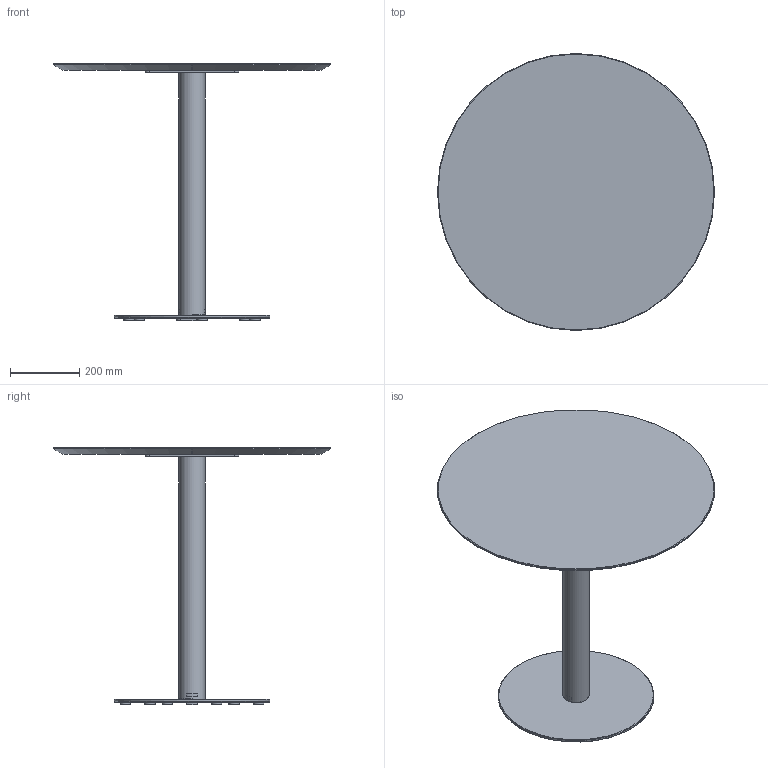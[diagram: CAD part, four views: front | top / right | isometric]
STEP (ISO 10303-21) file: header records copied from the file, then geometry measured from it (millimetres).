
FILE_DESCRIPTION( ('This file contains a STEP AP42 implementation' ,'as created by ZW3D STEP Interface translator.') ,'2;1' );
FILE_NAME( 'Henri - B_Rond - F1 - M5 - 800 x 800 x 750.stp' ,'24 912.151752', (''), ('ZWCAD Software Co.'), 'Version 1.0', 'ZW3D to STEP translator', '' );
FILE_SCHEMA(('AUTOMOTIVE_DESIGN { 1 0 10303 214 1 1 1 1 }'));
Length unit declared in the file: millimetre
Products named in the file (14): 0; PIED BISTROT PARAMETRIQUE_; COLONNE ACIER Ø76 V.02_; TUB-D076-02_; PLA-R76B-01_; SOCLE ACIER C Ø450 V.02_; SCL-D450-02_; PLA-R30A-01_; PLA-R30A-01; CROIX ACIER 370 V.02_; CRX-X370-02_; WUERTH 0276063020 Euro-screw 6.3x2 Verzinkt_; PLATEAU BISTROT PARAMETRIQUE_; insert_m6_13_
Assembly tree (24 placements, depth 3):
  0
  PIED BISTROT PARAMETRIQUE_
    COLONNE ACIER Ø76 V.02_
      TUB-D076-02_
      PLA-R76B-01_  x2
    SOCLE ACIER C Ø450 V.02_
      SCL-D450-02_
      PLA-R30A-01_
      PLA-R30A-01  x5
    CROIX ACIER 370 V.02_
      CRX-X370-02_
    WUERTH 0276063020 Euro-screw 6.3x2 Verzinkt_
    PLATEAU BISTROT PARAMETRIQUE_
      insert_m6_13_  x8
Bounding box: 800 x 800 x 744 mm (x, y, z)
Volume: 11800205 mm3; surface area: 1880867.9 mm2
Topology: 21 solids, 21 shells, 524 faces, 1273 edges, 802 vertices
Faces by surface type: plane 254, bspline 121, cylinder 99, cone 49, torus 1
Full cylindrical faces by diameter (mm): 4.88 x1, 6 x8, 6.3 x1, 8 x47, 12 x2, 14 x2, 30 x6, 72 x1, 76 x1, 450 x1
Entity records: 11734 total; most frequent: CARTESIAN_POINT 3302, ORIENTED_EDGE 1526, DIRECTION 1424, EDGE_CURVE 763, VERTEX_POINT 490, VECTOR 476, LINE 476, AXIS2_PLACEMENT_3D 474
